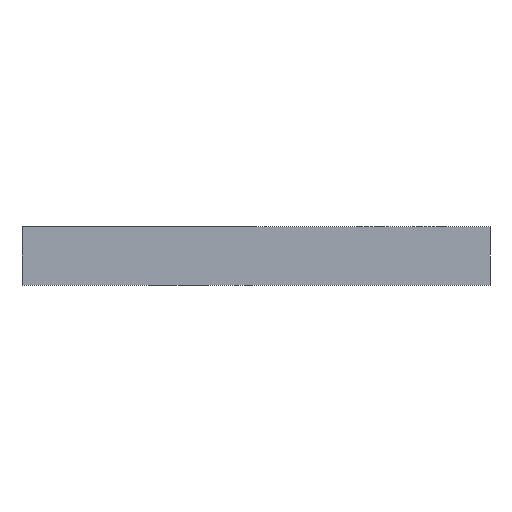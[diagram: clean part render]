
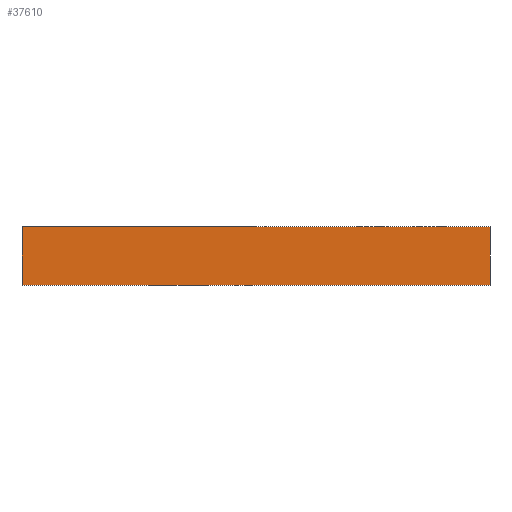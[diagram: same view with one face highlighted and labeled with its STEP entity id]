
A CAD part, left-side view. The second image highlights one B-rep face of the part: STEP entity #37610.
In plain terms, the highlighted planar face has unit normal (-1, 0, 0).
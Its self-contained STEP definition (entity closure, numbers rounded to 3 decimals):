
#37610 = ADVANCED_FACE('',(#37611),#37625,.F.);
#37611 = FACE_BOUND('',#37612,.F.);
#37612 = EDGE_LOOP('',(#37613,#37648,#37676,#37704));
#37613 = ORIENTED_EDGE('',*,*,#37614,.F.);
#37614 = EDGE_CURVE('',#37615,#37617,#37619,.T.);
#37615 = VERTEX_POINT('',#37616);
#37616 = CARTESIAN_POINT('',(0.,0.,0.));
#37617 = VERTEX_POINT('',#37618);
#37618 = CARTESIAN_POINT('',(0.,0.,1.5));
#37619 = SURFACE_CURVE('',#37620,(#37624,#37636),.PCURVE_S1.);
#37620 = LINE('',#37621,#37622);
#37621 = CARTESIAN_POINT('',(0.,0.,0.));
#37622 = VECTOR('',#37623,1.);
#37623 = DIRECTION('',(0.,0.,1.));
#37624 = PCURVE('',#37625,#37630);
#37625 = PLANE('',#37626);
#37626 = AXIS2_PLACEMENT_3D('',#37627,#37628,#37629);
#37627 = CARTESIAN_POINT('',(0.,0.,0.));
#37628 = DIRECTION('',(1.,0.,-0.));
#37629 = DIRECTION('',(0.,0.,1.));
#37630 = DEFINITIONAL_REPRESENTATION('',(#37631),#37635);
#37631 = LINE('',#37632,#37633);
#37632 = CARTESIAN_POINT('',(0.,0.));
#37633 = VECTOR('',#37634,1.);
#37634 = DIRECTION('',(1.,0.));
#37635 = ( GEOMETRIC_REPRESENTATION_CONTEXT(2) 
PARAMETRIC_REPRESENTATION_CONTEXT() REPRESENTATION_CONTEXT('2D SPACE',''
  ) );
#37636 = PCURVE('',#37637,#37642);
#37637 = PLANE('',#37638);
#37638 = AXIS2_PLACEMENT_3D('',#37639,#37640,#37641);
#37639 = CARTESIAN_POINT('',(0.,0.,0.));
#37640 = DIRECTION('',(-0.,1.,0.));
#37641 = DIRECTION('',(0.,0.,1.));
#37642 = DEFINITIONAL_REPRESENTATION('',(#37643),#37647);
#37643 = LINE('',#37644,#37645);
#37644 = CARTESIAN_POINT('',(0.,0.));
#37645 = VECTOR('',#37646,1.);
#37646 = DIRECTION('',(1.,0.));
#37647 = ( GEOMETRIC_REPRESENTATION_CONTEXT(2) 
PARAMETRIC_REPRESENTATION_CONTEXT() REPRESENTATION_CONTEXT('2D SPACE',''
  ) );
#37648 = ORIENTED_EDGE('',*,*,#37649,.T.);
#37649 = EDGE_CURVE('',#37615,#37650,#37652,.T.);
#37650 = VERTEX_POINT('',#37651);
#37651 = CARTESIAN_POINT('',(0.,12.,0.));
#37652 = SURFACE_CURVE('',#37653,(#37657,#37664),.PCURVE_S1.);
#37653 = LINE('',#37654,#37655);
#37654 = CARTESIAN_POINT('',(0.,0.,0.));
#37655 = VECTOR('',#37656,1.);
#37656 = DIRECTION('',(-0.,1.,0.));
#37657 = PCURVE('',#37625,#37658);
#37658 = DEFINITIONAL_REPRESENTATION('',(#37659),#37663);
#37659 = LINE('',#37660,#37661);
#37660 = CARTESIAN_POINT('',(0.,0.));
#37661 = VECTOR('',#37662,1.);
#37662 = DIRECTION('',(0.,-1.));
#37663 = ( GEOMETRIC_REPRESENTATION_CONTEXT(2) 
PARAMETRIC_REPRESENTATION_CONTEXT() REPRESENTATION_CONTEXT('2D SPACE',''
  ) );
#37664 = PCURVE('',#37665,#37670);
#37665 = PLANE('',#37666);
#37666 = AXIS2_PLACEMENT_3D('',#37667,#37668,#37669);
#37667 = CARTESIAN_POINT('',(0.,0.,0.));
#37668 = DIRECTION('',(0.,0.,1.));
#37669 = DIRECTION('',(1.,0.,-0.));
#37670 = DEFINITIONAL_REPRESENTATION('',(#37671),#37675);
#37671 = LINE('',#37672,#37673);
#37672 = CARTESIAN_POINT('',(0.,0.));
#37673 = VECTOR('',#37674,1.);
#37674 = DIRECTION('',(0.,1.));
#37675 = ( GEOMETRIC_REPRESENTATION_CONTEXT(2) 
PARAMETRIC_REPRESENTATION_CONTEXT() REPRESENTATION_CONTEXT('2D SPACE',''
  ) );
#37676 = ORIENTED_EDGE('',*,*,#37677,.T.);
#37677 = EDGE_CURVE('',#37650,#37678,#37680,.T.);
#37678 = VERTEX_POINT('',#37679);
#37679 = CARTESIAN_POINT('',(0.,12.,1.5));
#37680 = SURFACE_CURVE('',#37681,(#37685,#37692),.PCURVE_S1.);
#37681 = LINE('',#37682,#37683);
#37682 = CARTESIAN_POINT('',(0.,12.,0.));
#37683 = VECTOR('',#37684,1.);
#37684 = DIRECTION('',(0.,0.,1.));
#37685 = PCURVE('',#37625,#37686);
#37686 = DEFINITIONAL_REPRESENTATION('',(#37687),#37691);
#37687 = LINE('',#37688,#37689);
#37688 = CARTESIAN_POINT('',(0.,-12.));
#37689 = VECTOR('',#37690,1.);
#37690 = DIRECTION('',(1.,0.));
#37691 = ( GEOMETRIC_REPRESENTATION_CONTEXT(2) 
PARAMETRIC_REPRESENTATION_CONTEXT() REPRESENTATION_CONTEXT('2D SPACE',''
  ) );
#37692 = PCURVE('',#37693,#37698);
#37693 = PLANE('',#37694);
#37694 = AXIS2_PLACEMENT_3D('',#37695,#37696,#37697);
#37695 = CARTESIAN_POINT('',(0.,12.,0.));
#37696 = DIRECTION('',(-0.,1.,0.));
#37697 = DIRECTION('',(0.,0.,1.));
#37698 = DEFINITIONAL_REPRESENTATION('',(#37699),#37703);
#37699 = LINE('',#37700,#37701);
#37700 = CARTESIAN_POINT('',(0.,0.));
#37701 = VECTOR('',#37702,1.);
#37702 = DIRECTION('',(1.,0.));
#37703 = ( GEOMETRIC_REPRESENTATION_CONTEXT(2) 
PARAMETRIC_REPRESENTATION_CONTEXT() REPRESENTATION_CONTEXT('2D SPACE',''
  ) );
#37704 = ORIENTED_EDGE('',*,*,#37705,.F.);
#37705 = EDGE_CURVE('',#37617,#37678,#37706,.T.);
#37706 = SURFACE_CURVE('',#37707,(#37711,#37718),.PCURVE_S1.);
#37707 = LINE('',#37708,#37709);
#37708 = CARTESIAN_POINT('',(0.,0.,1.5));
#37709 = VECTOR('',#37710,1.);
#37710 = DIRECTION('',(-0.,1.,0.));
#37711 = PCURVE('',#37625,#37712);
#37712 = DEFINITIONAL_REPRESENTATION('',(#37713),#37717);
#37713 = LINE('',#37714,#37715);
#37714 = CARTESIAN_POINT('',(1.5,0.));
#37715 = VECTOR('',#37716,1.);
#37716 = DIRECTION('',(0.,-1.));
#37717 = ( GEOMETRIC_REPRESENTATION_CONTEXT(2) 
PARAMETRIC_REPRESENTATION_CONTEXT() REPRESENTATION_CONTEXT('2D SPACE',''
  ) );
#37718 = PCURVE('',#37719,#37724);
#37719 = PLANE('',#37720);
#37720 = AXIS2_PLACEMENT_3D('',#37721,#37722,#37723);
#37721 = CARTESIAN_POINT('',(0.,0.,1.5));
#37722 = DIRECTION('',(0.,0.,1.));
#37723 = DIRECTION('',(1.,0.,-0.));
#37724 = DEFINITIONAL_REPRESENTATION('',(#37725),#37729);
#37725 = LINE('',#37726,#37727);
#37726 = CARTESIAN_POINT('',(0.,0.));
#37727 = VECTOR('',#37728,1.);
#37728 = DIRECTION('',(0.,1.));
#37729 = ( GEOMETRIC_REPRESENTATION_CONTEXT(2) 
PARAMETRIC_REPRESENTATION_CONTEXT() REPRESENTATION_CONTEXT('2D SPACE',''
  ) );
